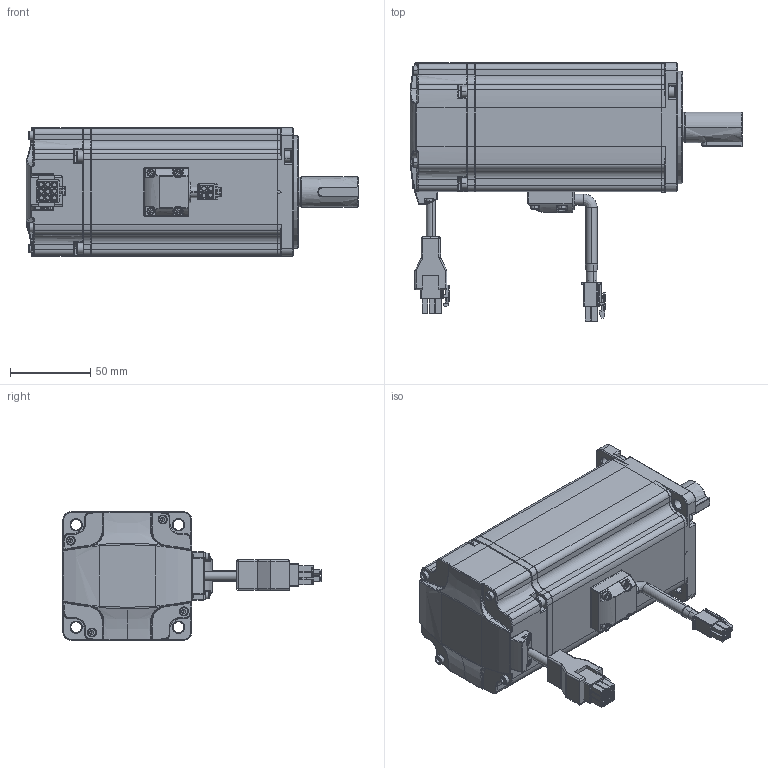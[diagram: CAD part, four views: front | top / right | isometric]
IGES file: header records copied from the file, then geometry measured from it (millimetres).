
Start section: SolidWorks IGES file using analytic representation for surfaces
Global section: file name: D:\¹¤×÷\2023.11\2023.11.10\1\EM3J-10ATA241.IGS; native system: SolidWorks 2018; preprocessor: SolidWorks 2018; author: wangyitong; date: 231116.091922; units: millimetre
Bounding box: 206.5 x 160.49 x 80 mm (x, y, z)
Surface area: 137069 mm2 (no closed solid volume)
Topology: 0 solids, 0 shells, 2355 faces, 23116 edges, 23025 vertices
Faces by surface type: bspline 1332, revolution 1023
